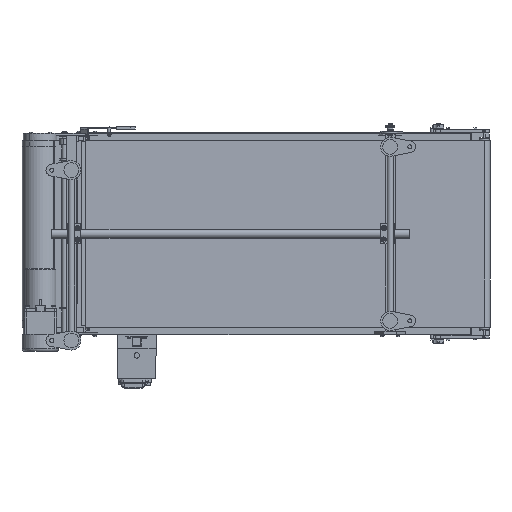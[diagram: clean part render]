
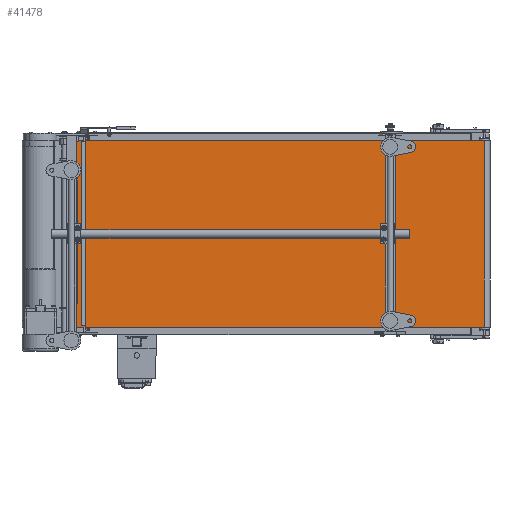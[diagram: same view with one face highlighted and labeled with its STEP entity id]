
A CAD part, front view. The second image highlights one B-rep face of the part: STEP entity #41478.
In plain terms, the highlighted planar face has unit normal (0.009, -1, 0).
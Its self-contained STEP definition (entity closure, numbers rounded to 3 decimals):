
#2537 = ORIENTED_EDGE ( 'NONE', *, *, #74855, .F. ) ;
#4930 = ORIENTED_EDGE ( 'NONE', *, *, #68667, .T. ) ;
#7289 = LINE ( 'NONE', #24562, #70240 ) ;
#9856 = DIRECTION ( 'NONE',  ( -1., -0.009, 0. ) ) ;
#16334 = LINE ( 'NONE', #50293, #32986 ) ;
#17888 = DIRECTION ( 'NONE',  ( 1., 0.009, 0. ) ) ;
#19010 = CARTESIAN_POINT ( 'NONE',  ( 1483.164, -32.999, 300. ) ) ;
#19369 = EDGE_LOOP ( 'NONE', ( #42406, #69562, #2537, #4930 ) ) ;
#19703 = DIRECTION ( 'NONE',  ( 0., 0., -1. ) ) ;
#23191 = CARTESIAN_POINT ( 'NONE',  ( 150.47, -44.938, 300. ) ) ;
#24529 = EDGE_CURVE ( 'NONE', #70159, #27350, #33595, .T. ) ;
#24562 = CARTESIAN_POINT ( 'NONE',  ( 1483.164, -32.999, 300. ) ) ;
#27350 = VERTEX_POINT ( 'NONE', #75839 ) ;
#32986 = VECTOR ( 'NONE', #62036, 1000. ) ;
#33595 = LINE ( 'NONE', #57042, #36391 ) ;
#36391 = VECTOR ( 'NONE', #19703, 1000. ) ;
#38223 = VECTOR ( 'NONE', #72771, 1000. ) ;
#38966 = VERTEX_POINT ( 'NONE', #59273 ) ;
#41478 = ADVANCED_FACE ( 'NONE', ( #50357 ), #56099, .F. ) ;
#42406 = ORIENTED_EDGE ( 'NONE', *, *, #72392, .T. ) ;
#50293 = CARTESIAN_POINT ( 'NONE',  ( 1483.164, -32.999, -300. ) ) ;
#50357 = FACE_OUTER_BOUND ( 'NONE', #19369, .T. ) ;
#53293 = DIRECTION ( 'NONE',  ( -0.009, 1., 0. ) ) ;
#55775 = AXIS2_PLACEMENT_3D ( 'NONE', #68358, #53293, #9856 ) ;
#56099 = PLANE ( 'NONE',  #55775 ) ;
#56330 = CARTESIAN_POINT ( 'NONE',  ( 150.47, -44.938, 300. ) ) ;
#57042 = CARTESIAN_POINT ( 'NONE',  ( 1483.164, -32.999, 300. ) ) ;
#59273 = CARTESIAN_POINT ( 'NONE',  ( 150.47, -44.938, -300. ) ) ;
#59363 = VERTEX_POINT ( 'NONE', #56330 ) ;
#62036 = DIRECTION ( 'NONE',  ( 1., 0.009, 0. ) ) ;
#68358 = CARTESIAN_POINT ( 'NONE',  ( 1483.164, -32.999, 300. ) ) ;
#68667 = EDGE_CURVE ( 'NONE', #59363, #38966, #75404, .T. ) ;
#69562 = ORIENTED_EDGE ( 'NONE', *, *, #24529, .F. ) ;
#70159 = VERTEX_POINT ( 'NONE', #19010 ) ;
#70240 = VECTOR ( 'NONE', #17888, 1000. ) ;
#72392 = EDGE_CURVE ( 'NONE', #38966, #27350, #16334, .T. ) ;
#72771 = DIRECTION ( 'NONE',  ( 0., 0., -1. ) ) ;
#74855 = EDGE_CURVE ( 'NONE', #59363, #70159, #7289, .T. ) ;
#75404 = LINE ( 'NONE', #23191, #38223 ) ;
#75839 = CARTESIAN_POINT ( 'NONE',  ( 1483.164, -32.999, -300. ) ) ;
